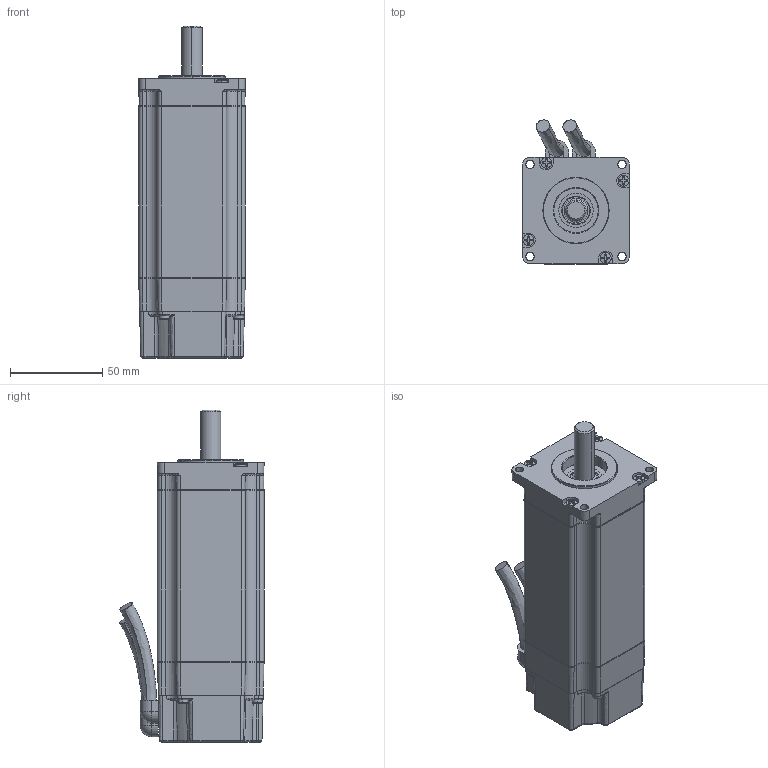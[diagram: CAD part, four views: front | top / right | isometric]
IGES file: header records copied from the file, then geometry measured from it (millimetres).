
Start section:  PTC IGES file: vlm23e.igs
Global section: file name: vlm23e.igs; native system: Pro/ENGINEER by Parametric Technology Corporation; preprocessor: 2006510; author: Ray.Dobbins; organization: Unknown; date: 20110715.140744; units: inch
Bounding box: 57.91 x 78.26 x 180.27 mm (x, y, z)
Surface area: 46829.4 mm2 (no closed solid volume)
Topology: 0 solids, 0 shells, 502 faces, 2506 edges, 2502 vertices
Faces by surface type: bspline 253, revolution 249
